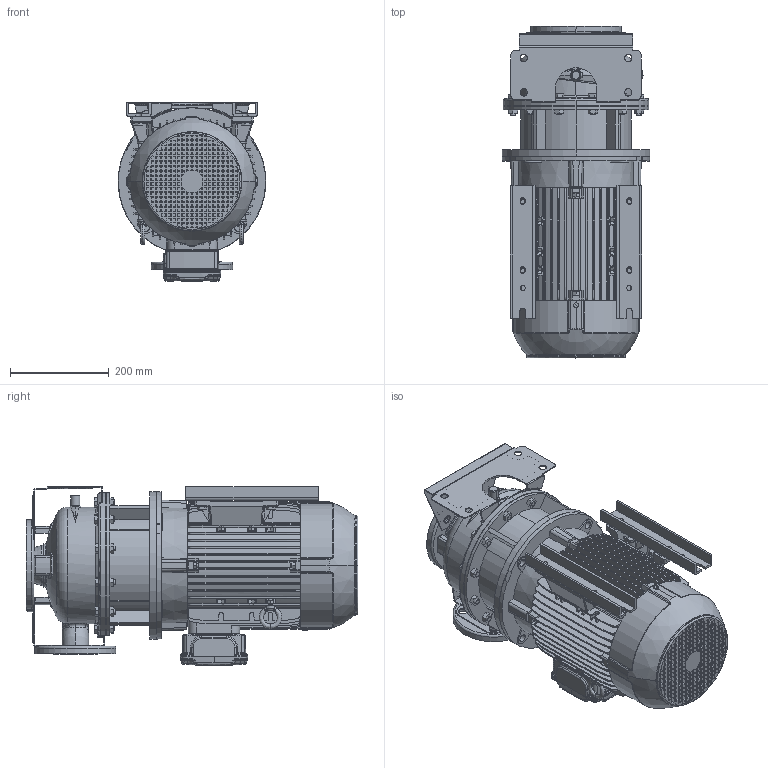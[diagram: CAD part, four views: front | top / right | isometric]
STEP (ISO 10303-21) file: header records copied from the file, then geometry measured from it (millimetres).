
FILE_DESCRIPTION (( 'STEP AP214' ), '1' );
FILE_NAME ('3LS 50-160_5.5 & 7.5_(132S)_W21.STEP', '2026-04-29T04:51:46', ( '' ), ( '' ), 'SwSTEP 2.0', 'SolidWorks 2024', '' );
FILE_SCHEMA (( 'AUTOMOTIVE_DESIGN' ));
Length unit declared in the file: millimetre
Products named in the file (5): 3LS 50-160_5.5 & 7.5_(132S)_W21; Bolt & Washer M10 x 20.STEP; 132S ALIE3_W21T_B35.STEP; 3LS 50-160_5.5 & 7.5_(132S)_W21.STEP; 50-160_5_5_ie2_STEP.STEP
Assembly tree (7 placements, depth 3):
  3LS 50-160_5.5 & 7.5_(132S)_W21
    3LS 50-160_5.5 & 7.5_(132S)_W21.STEP
      50-160_5_5_ie2_STEP.STEP
      132S ALIE3_W21T_B35.STEP
    Bolt & Washer M10 x 20.STEP  x4
Bounding box: 300 x 673.8 x 363 mm (x, y, z)
Volume: 27732006.5 mm3; surface area: 2204877 mm2
Topology: 18 solids, 18 shells, 4119 faces, 10658 edges, 6933 vertices
Faces by surface type: plane 2818, cylinder 775, torus 180, bspline 162, cone 152, sphere 32
Entity records: 137976 total; most frequent: CARTESIAN_POINT 39676, ORIENTED_EDGE 20884, DIRECTION 19370, EDGE_CURVE 10442, VECTOR 7622, LINE 7622, VERTEX_POINT 6807, AXIS2_PLACEMENT_3D 5874
